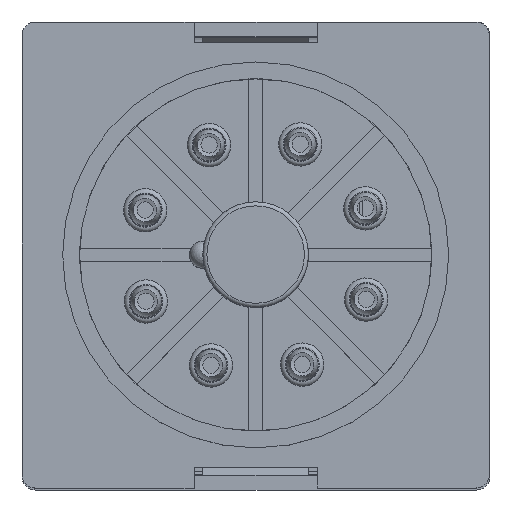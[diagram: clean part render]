
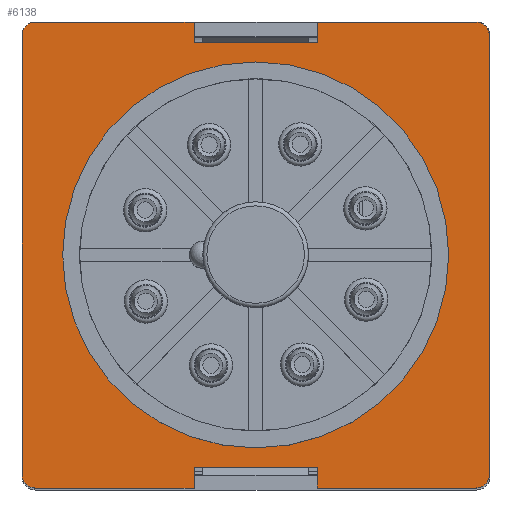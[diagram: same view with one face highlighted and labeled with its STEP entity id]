
A CAD part, top view. The second image highlights one B-rep face of the part: STEP entity #6138.
In plain terms, the highlighted planar face has unit normal (0, 0, 1).
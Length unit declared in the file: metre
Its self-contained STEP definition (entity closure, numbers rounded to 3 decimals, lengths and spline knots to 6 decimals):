
#3969=CARTESIAN_POINT('',(0.034316,0.003497,0.039761));
#3970=DIRECTION('',(0.,0.,1.));
#3971=DIRECTION('',(1.,0.,0.));
#3972=AXIS2_PLACEMENT_3D('',#3969,#3970,#3971);
#3973=PLANE('',#3972);
#5326=CARTESIAN_POINT('',(0.038866,0.058746,0.039761));
#5327=VERTEX_POINT('',#5326);
#5330=CARTESIAN_POINT('',(0.034316,0.058746,0.039761));
#5331=DIRECTION('',(1.,0.,0.));
#5332=VECTOR('',#5331,1.);
#5333=LINE('',#5330,#5332);
#5334=CARTESIAN_POINT('',(0.050566,0.058746,0.039761));
#5335=VERTEX_POINT('',#5334);
#5336=EDGE_CURVE('',#5327,#5335,#5333,.T.);
#5370=CARTESIAN_POINT('',(0.050566,0.057746,0.039761));
#5371=DIRECTION('',(0.,0.,1.));
#5372=DIRECTION('',(1.,0.,0.));
#5373=AXIS2_PLACEMENT_3D('',#5370,#5371,#5372);
#5374=CIRCLE('',#5373,0.001);
#5375=CARTESIAN_POINT('',(0.051566,0.057746,0.039761));
#5376=VERTEX_POINT('',#5375);
#5377=EDGE_CURVE('',#5376,#5335,#5374,.T.);
#5410=CARTESIAN_POINT('',(0.051566,0.003497,0.039761));
#5411=DIRECTION('',(0.,-1.,0.));
#5412=VECTOR('',#5411,1.);
#5413=LINE('',#5410,#5412);
#5414=CARTESIAN_POINT('',(0.051566,0.025334,0.039761));
#5415=VERTEX_POINT('',#5414);
#5416=EDGE_CURVE('',#5376,#5415,#5413,.T.);
#5450=CARTESIAN_POINT('',(0.050566,0.025334,0.039761));
#5451=DIRECTION('',(0.,0.,1.));
#5452=DIRECTION('',(1.,0.,0.));
#5453=AXIS2_PLACEMENT_3D('',#5450,#5451,#5452);
#5454=CIRCLE('',#5453,0.001);
#5455=CARTESIAN_POINT('',(0.050566,0.024334,0.039761));
#5456=VERTEX_POINT('',#5455);
#5457=EDGE_CURVE('',#5456,#5415,#5454,.T.);
#5490=CARTESIAN_POINT('',(0.034316,0.024334,0.039761));
#5491=DIRECTION('',(1.,0.,0.));
#5492=VECTOR('',#5491,1.);
#5493=LINE('',#5490,#5492);
#5494=CARTESIAN_POINT('',(0.038866,0.024334,0.039761));
#5495=VERTEX_POINT('',#5494);
#5496=EDGE_CURVE('',#5495,#5456,#5493,.T.);
#5529=CARTESIAN_POINT('',(0.038866,0.003497,0.039761));
#5530=DIRECTION('',(0.,1.,0.));
#5531=VECTOR('',#5530,1.);
#5532=LINE('',#5529,#5531);
#5533=CARTESIAN_POINT('',(0.038866,0.025846,0.039761));
#5534=VERTEX_POINT('',#5533);
#5535=EDGE_CURVE('',#5495,#5534,#5532,.T.);
#5563=CARTESIAN_POINT('',(0.029766,0.025846,0.039761));
#5564=VERTEX_POINT('',#5563);
#5648=CARTESIAN_POINT('',(0.034316,0.025846,0.039761));
#5649=DIRECTION('',(-1.,0.,0.));
#5650=VECTOR('',#5649,1.);
#5651=LINE('',#5648,#5650);
#5652=EDGE_CURVE('',#5534,#5564,#5651,.T.);
#5690=CARTESIAN_POINT('',(0.029766,0.003497,0.039761));
#5691=DIRECTION('',(0.,1.,0.));
#5692=VECTOR('',#5691,1.);
#5693=LINE('',#5690,#5692);
#5694=CARTESIAN_POINT('',(0.029766,0.024334,0.039761));
#5695=VERTEX_POINT('',#5694);
#5696=EDGE_CURVE('',#5695,#5564,#5693,.T.);
#5729=CARTESIAN_POINT('',(0.034316,0.024334,0.039761));
#5730=DIRECTION('',(1.,0.,0.));
#5731=VECTOR('',#5730,1.);
#5732=LINE('',#5729,#5731);
#5733=CARTESIAN_POINT('',(0.018066,0.024334,0.039761));
#5734=VERTEX_POINT('',#5733);
#5735=EDGE_CURVE('',#5734,#5695,#5732,.T.);
#5769=CARTESIAN_POINT('',(0.018066,0.025334,0.039761));
#5770=DIRECTION('',(0.,0.,1.));
#5771=DIRECTION('',(1.,0.,0.));
#5772=AXIS2_PLACEMENT_3D('',#5769,#5770,#5771);
#5773=CIRCLE('',#5772,0.001);
#5774=CARTESIAN_POINT('',(0.017066,0.025334,0.039761));
#5775=VERTEX_POINT('',#5774);
#5776=EDGE_CURVE('',#5775,#5734,#5773,.T.);
#5809=CARTESIAN_POINT('',(0.017066,0.003497,0.039761));
#5810=DIRECTION('',(0.,-1.,0.));
#5811=VECTOR('',#5810,1.);
#5812=LINE('',#5809,#5811);
#5813=CARTESIAN_POINT('',(0.017066,0.057746,0.039761));
#5814=VERTEX_POINT('',#5813);
#5815=EDGE_CURVE('',#5814,#5775,#5812,.T.);
#5849=CARTESIAN_POINT('',(0.018066,0.057746,0.039761));
#5850=DIRECTION('',(0.,0.,1.));
#5851=DIRECTION('',(1.,0.,0.));
#5852=AXIS2_PLACEMENT_3D('',#5849,#5850,#5851);
#5853=CIRCLE('',#5852,0.001);
#5854=CARTESIAN_POINT('',(0.018066,0.058746,0.039761));
#5855=VERTEX_POINT('',#5854);
#5856=EDGE_CURVE('',#5855,#5814,#5853,.T.);
#5889=CARTESIAN_POINT('',(0.034316,0.058746,0.039761));
#5890=DIRECTION('',(1.,0.,0.));
#5891=VECTOR('',#5890,1.);
#5892=LINE('',#5889,#5891);
#5893=CARTESIAN_POINT('',(0.029766,0.058746,0.039761));
#5894=VERTEX_POINT('',#5893);
#5895=EDGE_CURVE('',#5855,#5894,#5892,.T.);
#5928=CARTESIAN_POINT('',(0.029766,0.003497,0.039761));
#5929=DIRECTION('',(0.,-1.,0.));
#5930=VECTOR('',#5929,1.);
#5931=LINE('',#5928,#5930);
#5932=CARTESIAN_POINT('',(0.029766,0.057246,0.039761));
#5933=VERTEX_POINT('',#5932);
#5934=EDGE_CURVE('',#5894,#5933,#5931,.T.);
#5962=CARTESIAN_POINT('',(0.038866,0.057246,0.039761));
#5963=VERTEX_POINT('',#5962);
#6051=CARTESIAN_POINT('',(0.034316,0.057246,0.039761));
#6052=DIRECTION('',(-1.,0.,0.));
#6053=VECTOR('',#6052,1.);
#6054=LINE('',#6051,#6053);
#6055=EDGE_CURVE('',#5963,#5933,#6054,.T.);
#6091=CARTESIAN_POINT('',(0.038866,0.003497,0.039761));
#6092=DIRECTION('',(0.,-1.,0.));
#6093=VECTOR('',#6092,1.);
#6094=LINE('',#6091,#6093);
#6095=EDGE_CURVE('',#5327,#5963,#6094,.T.);
#6109=ORIENTED_EDGE('',*,*,#6095,.T.);
#6110=ORIENTED_EDGE('',*,*,#6055,.T.);
#6111=ORIENTED_EDGE('',*,*,#5934,.F.);
#6112=ORIENTED_EDGE('',*,*,#5895,.F.);
#6113=ORIENTED_EDGE('',*,*,#5856,.T.);
#6114=ORIENTED_EDGE('',*,*,#5815,.T.);
#6115=ORIENTED_EDGE('',*,*,#5776,.T.);
#6116=ORIENTED_EDGE('',*,*,#5735,.T.);
#6117=ORIENTED_EDGE('',*,*,#5696,.T.);
#6118=ORIENTED_EDGE('',*,*,#5652,.F.);
#6119=ORIENTED_EDGE('',*,*,#5535,.F.);
#6120=ORIENTED_EDGE('',*,*,#5496,.T.);
#6121=ORIENTED_EDGE('',*,*,#5457,.T.);
#6122=ORIENTED_EDGE('',*,*,#5416,.F.);
#6123=ORIENTED_EDGE('',*,*,#5377,.T.);
#6124=ORIENTED_EDGE('',*,*,#5336,.F.);
#6125=EDGE_LOOP('',(#6109,#6110,#6111,#6112,#6113,#6114,#6115,#6116,#6117,#6118,#6119,#6120,#6121,#6122,#6123,#6124));
#6126=FACE_BOUND('',#6125,.T.);
#6127=CARTESIAN_POINT('',(0.034316,0.041546,0.039761));
#6128=DIRECTION('',(0.,0.,1.));
#6129=DIRECTION('',(1.,0.,0.));
#6130=AXIS2_PLACEMENT_3D('',#6127,#6128,#6129);
#6131=CIRCLE('',#6130,0.01425);
#6132=CARTESIAN_POINT('',(0.020066,0.041546,0.039761));
#6133=VERTEX_POINT('',#6132);
#6134=EDGE_CURVE('',#6133,#6133,#6131,.T.);
#6135=ORIENTED_EDGE('',*,*,#6134,.F.);
#6136=EDGE_LOOP('',(#6135));
#6137=FACE_BOUND('',#6136,.T.);
#6138=ADVANCED_FACE('',(#6126,#6137),#3973,.T.);
